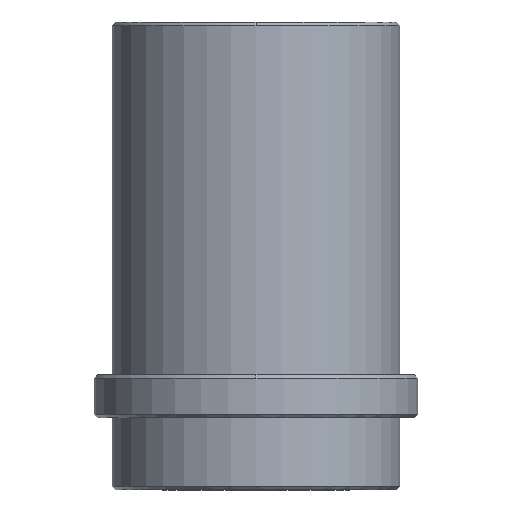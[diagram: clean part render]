
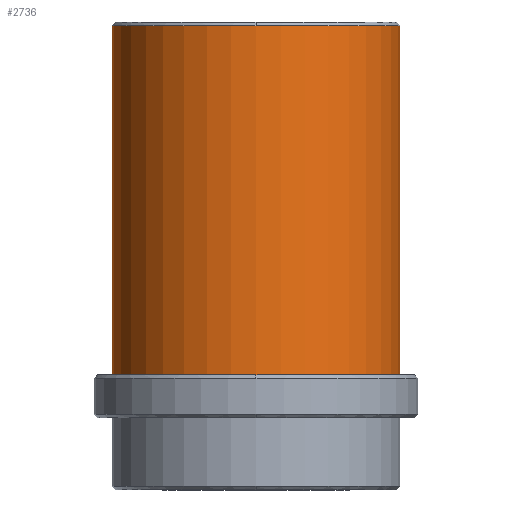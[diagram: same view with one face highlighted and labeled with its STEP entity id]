
A CAD part, front view. The second image highlights one B-rep face of the part: STEP entity #2736.
In plain terms, the highlighted cylindrical face has radius 20 mm (diameter 40 mm), a partial arc.
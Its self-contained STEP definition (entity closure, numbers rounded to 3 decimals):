
#2557=CARTESIAN_POINT('Vertex',(20.,0.,54.5)) ;
#2581=CARTESIAN_POINT('Vertex',(-20.,0.,54.5)) ;
#2605=CARTESIAN_POINT('Vertex',(0.,-20.,54.5)) ;
#2608=CARTESIAN_POINT('Axis2P3D Location',(0.,0.,54.5)) ;
#2625=CARTESIAN_POINT('Axis2P3D Location',(0.,0.,54.5)) ;
#2692=CARTESIAN_POINT('Line Origine',(20.,0.,-13.25)) ;
#2696=CARTESIAN_POINT('Vertex',(20.,0.,6.)) ;
#2703=CARTESIAN_POINT('Vertex',(-20.,0.,6.)) ;
#2706=CARTESIAN_POINT('Line Origine',(-20.,0.,-13.25)) ;
#2719=CARTESIAN_POINT('Axis2P3D Location',(0.,0.,-13.25)) ;
#2724=CARTESIAN_POINT('Axis2P3D Location',(0.,0.,6.)) ;
#2609=DIRECTION('Axis2P3D Direction',(0.,0.,-1.)) ;
#2626=DIRECTION('Axis2P3D Direction',(0.,0.,-1.)) ;
#2693=DIRECTION('Vector Direction',(0.,0.,1.)) ;
#2707=DIRECTION('Vector Direction',(0.,0.,1.)) ;
#2720=DIRECTION('Axis2P3D Direction',(0.,0.,1.)) ;
#2721=DIRECTION('Axis2P3D XDirection',(-1.,0.,0.)) ;
#2725=DIRECTION('Axis2P3D Direction',(0.,0.,1.)) ;
#2610=AXIS2_PLACEMENT_3D('Circle Axis2P3D',#2608,#2609,$) ;
#2627=AXIS2_PLACEMENT_3D('Circle Axis2P3D',#2625,#2626,$) ;
#2722=AXIS2_PLACEMENT_3D('Cylinder Axis2P3D',#2719,#2720,#2721) ;
#2726=AXIS2_PLACEMENT_3D('Circle Axis2P3D',#2724,#2725,$) ;
#2730=ORIENTED_EDGE('',*,*,#2710,.T.) ;
#2731=ORIENTED_EDGE('',*,*,#2728,.F.) ;
#2732=ORIENTED_EDGE('',*,*,#2698,.F.) ;
#2733=ORIENTED_EDGE('',*,*,#2629,.T.) ;
#2734=ORIENTED_EDGE('',*,*,#2612,.T.) ;
#2694=VECTOR('Line Direction',#2693,1.) ;
#2708=VECTOR('Line Direction',#2707,1.) ;
#2736=ADVANCED_FACE('MANIFOLD_SOLID_BREP #2368',(#2735),#2723,.T.) ;
#2611=CIRCLE('generated circle',#2610,20.) ;
#2628=CIRCLE('generated circle',#2627,20.) ;
#2727=CIRCLE('generated circle',#2726,20.) ;
#2723=CYLINDRICAL_SURFACE('generated cylinder',#2722,20.) ;
#2612=EDGE_CURVE('',#2606,#2582,#2611,.T.) ;
#2629=EDGE_CURVE('',#2558,#2606,#2628,.T.) ;
#2698=EDGE_CURVE('',#2558,#2697,#2695,.F.) ;
#2710=EDGE_CURVE('',#2582,#2704,#2709,.F.) ;
#2728=EDGE_CURVE('',#2697,#2704,#2727,.F.) ;
#2729=EDGE_LOOP('',(#2730,#2731,#2732,#2733,#2734)) ;
#2735=FACE_OUTER_BOUND('',#2729,.T.) ;
#2695=LINE('Line',#2692,#2694) ;
#2709=LINE('Line',#2706,#2708) ;
#2558=VERTEX_POINT('',#2557) ;
#2582=VERTEX_POINT('',#2581) ;
#2606=VERTEX_POINT('',#2605) ;
#2697=VERTEX_POINT('',#2696) ;
#2704=VERTEX_POINT('',#2703) ;
